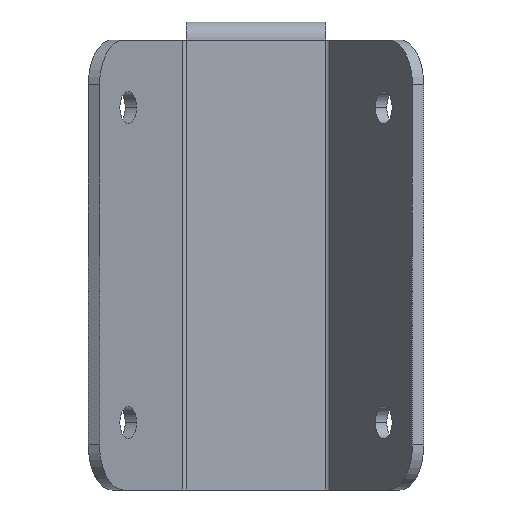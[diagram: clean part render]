
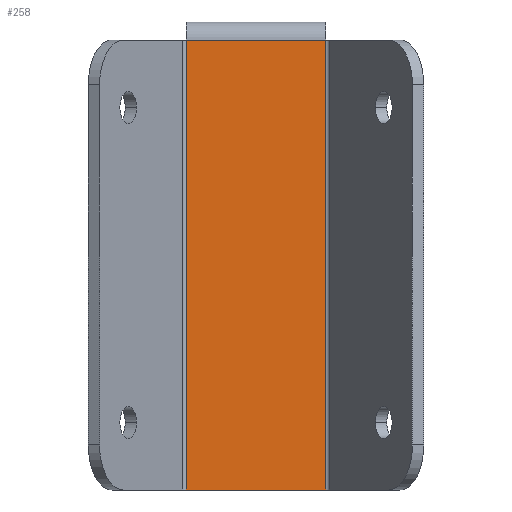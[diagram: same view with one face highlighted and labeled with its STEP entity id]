
A CAD part, front view. The second image highlights one B-rep face of the part: STEP entity #258.
In plain terms, the highlighted planar face has unit normal (0, -1, 0).
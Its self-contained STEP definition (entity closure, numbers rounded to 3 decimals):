
#47 = VERTEX_POINT ( 'NONE', #437 ) ;
#112 = EDGE_CURVE ( 'NONE', #47, #121, #606, .T. ) ;
#121 = VERTEX_POINT ( 'NONE', #577 ) ;
#238 = EDGE_LOOP ( 'NONE', ( #249, #291, #256, #281 ) ) ;
#249 = ORIENTED_EDGE ( 'NONE', *, *, #112, .F. ) ;
#255 = EDGE_CURVE ( 'NONE', #1352, #47, #798, .T. ) ;
#256 = ORIENTED_EDGE ( 'NONE', *, *, #257, .F. ) ;
#257 = EDGE_CURVE ( 'NONE', #294, #1352, #805, .T. ) ;
#258 = ADVANCED_FACE ( 'NONE', ( #813 ), #797, .T. ) ;
#281 = ORIENTED_EDGE ( 'NONE', *, *, #297, .T. ) ;
#291 = ORIENTED_EDGE ( 'NONE', *, *, #255, .F. ) ;
#294 = VERTEX_POINT ( 'NONE', #856 ) ;
#297 = EDGE_CURVE ( 'NONE', #294, #121, #613, .T. ) ;
#344 = VECTOR ( 'NONE', #351, 1000. ) ;
#351 = DIRECTION ( 'NONE',  ( 0., 0., -1. ) ) ;
#437 = CARTESIAN_POINT ( 'NONE',  ( 15.446, 40., 0. ) ) ;
#577 = CARTESIAN_POINT ( 'NONE',  ( -15.446, 40., 0. ) ) ;
#592 = DIRECTION ( 'NONE',  ( -1., 0., 0. ) ) ;
#593 = VECTOR ( 'NONE', #592, 1000. ) ;
#594 = CARTESIAN_POINT ( 'NONE',  ( -16., 40., 0. ) ) ;
#606 = LINE ( 'NONE', #594, #593 ) ;
#612 = CARTESIAN_POINT ( 'NONE',  ( -15.446, 40., 60. ) ) ;
#613 = LINE ( 'NONE', #612, #344 ) ;
#787 = AXIS2_PLACEMENT_3D ( 'NONE', #844, #843, #842 ) ;
#788 = DIRECTION ( 'NONE',  ( 1., 0., 0. ) ) ;
#789 = VECTOR ( 'NONE', #788, 1000. ) ;
#790 = CARTESIAN_POINT ( 'NONE',  ( -15.446, 40., 100. ) ) ;
#794 = DIRECTION ( 'NONE',  ( 0., 0., -1. ) ) ;
#795 = VECTOR ( 'NONE', #794, 1000. ) ;
#796 = CARTESIAN_POINT ( 'NONE',  ( 15.446, 40., 60. ) ) ;
#797 = PLANE ( 'NONE',  #787 ) ;
#798 = LINE ( 'NONE', #796, #795 ) ;
#805 = LINE ( 'NONE', #790, #789 ) ;
#813 = FACE_OUTER_BOUND ( 'NONE', #238, .T. ) ;
#842 = DIRECTION ( 'NONE',  ( 0., 0., -1. ) ) ;
#843 = DIRECTION ( 'NONE',  ( 0., -1., 0. ) ) ;
#844 = CARTESIAN_POINT ( 'NONE',  ( -16., 40., 60. ) ) ;
#856 = CARTESIAN_POINT ( 'NONE',  ( -15.446, 40., 100. ) ) ;
#1084 = CARTESIAN_POINT ( 'NONE',  ( 15.446, 40., 100. ) ) ;
#1352 = VERTEX_POINT ( 'NONE', #1084 ) ;
